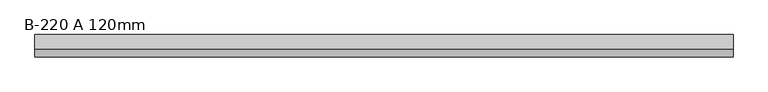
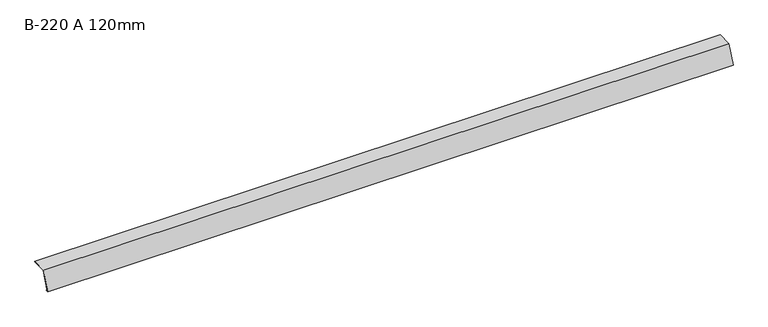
"""IFC4 building model written with IfcOpenShell, lengths in millimetres: proxy geometry, GROVIK_Flashing_Eaves : B-220 A 120mm."""

import ifcopenshell
import ifcopenshell.guid

model = None  # the IFC model being written
_history = None  # IfcOwnerHistory: only IFC2X3 demands one
_inside = {}  # id of a spatial element -> (the spatial element, [elements in it])
_under = {}  # id of a project, library or spatial element -> (it, [spatial elements below it])
_declared = {}  # id of a project -> (the project, [libraries it declares])
_typed = {}  # id of a type object -> (the type object, [elements of that type])
_made_of = {}  # id of a material, layer set ... -> (it, [elements and type objects made of it])


def new_model(schema):
    """Start an empty IFC model of exactly this schema.

    Asked for "IFC4X3", IfcOpenShell would pick the latest addendum, in which some entities
    have other attributes; the version numbers below select the first issue.
    IFC2X3 requires an IfcOwnerHistory on every rooted entity: one is made here for all.
    """
    global model, _history
    if schema == "IFC4X3":
        model = ifcopenshell.file(schema_version=(4, 3, 0, 0))
    else:
        model = ifcopenshell.file(schema=schema)
    _inside.clear()
    _under.clear()
    _declared.clear()
    _typed.clear()
    _made_of.clear()
    _history = None
    if model.schema == "IFC2X3":
        org = make("IfcOrganization", Name="unknown")
        user = make(
            "IfcPersonAndOrganization",
            ThePerson=make("IfcPerson", FamilyName="unknown"),
            TheOrganization=org,
        )
        app = make(
            "IfcApplication",
            ApplicationDeveloper=org,
            Version="unknown",
            ApplicationFullName="unknown",
            ApplicationIdentifier="unknown",
        )
        _history = make(
            "IfcOwnerHistory",
            OwningUser=user,
            OwningApplication=app,
            ChangeAction="ADDED",
            CreationDate=0,
        )
    return model


def make(cls, **values):
    """One entity of the class cls with the attributes given. An attribute that is None is left unset."""
    return model.create_entity(
        cls, **{name: value for name, value in values.items() if value is not None}
    )


def rooted(cls, **values):
    """An entity with a GlobalId (a new one), such as an element, a storey or a relation."""
    return make(cls, GlobalId=ifcopenshell.guid.new(), OwnerHistory=_history, **values)


def si_unit(unit_type, name, prefix=None):
    """IfcSIUnit, for example si_unit("LENGTHUNIT", "METRE", prefix="MILLI")."""
    return make("IfcSIUnit", UnitType=unit_type, Prefix=prefix, Name=name)


def assignment(units):
    """IfcUnitAssignment: the units of a project."""
    return None if units is None else make("IfcUnitAssignment", Units=units)


def point(xyz):
    """IfcCartesianPoint."""
    return None if xyz is None else make("IfcCartesianPoint", Coordinates=xyz)


def direction(xyz):
    """IfcDirection."""
    return None if xyz is None else make("IfcDirection", DirectionRatios=xyz)


def frame(location, z_axis=None, x_axis=None):
    """IfcAxis2Placement3D, a coordinate frame: its origin and axes. An axis left out is left unset."""
    return make(
        "IfcAxis2Placement3D",
        Location=point(location),
        Axis=direction(z_axis),
        RefDirection=direction(x_axis),
    )


def origin():
    """The frame at (0, 0, 0) with its axes left unset."""
    return frame((0.0, 0.0, 0.0))


def place(relative_to, where):
    """IfcLocalPlacement: puts the frame where relative to a parent placement (None: the world)."""
    return make(
        "IfcLocalPlacement", PlacementRelTo=relative_to, RelativePlacement=where
    )


def context(
    kind, dimensions, precision=None, world=None, true_north=None, identifier=None
):
    """IfcGeometricRepresentationContext, for example the 3D "Model" context."""
    return make(
        "IfcGeometricRepresentationContext",
        ContextIdentifier=identifier,
        ContextType=kind,
        CoordinateSpaceDimension=dimensions,
        Precision=precision,
        WorldCoordinateSystem=world,
        TrueNorth=true_north,
    )


def project(units=None, contexts=None):
    """IfcProject with its units and contexts."""
    return rooted(
        "IfcProject",
        Name="project",
        RepresentationContexts=contexts,
        UnitsInContext=assignment(units),
    )


def spatial(cls, under=None, at=None, **own):
    """A site, building, storey or space (cls), placed at a placement, below another one or the project."""
    s = rooted(cls, ObjectPlacement=at, **own)
    if under is not None:
        _under.setdefault(under.id(), (under, []))[1].append(s)
    return s


def polyline(points):
    """IfcPolyline through the points."""
    return make("IfcPolyline", Points=[point(p) for p in points])


def outline(outer, holes=None, kind="AREA"):
    """IfcArbitraryClosedProfileDef: a profile drawn as a closed curve; with holes, ...WithVoids."""
    if holes is None:
        return make("IfcArbitraryClosedProfileDef", ProfileType=kind, OuterCurve=outer)
    return make(
        "IfcArbitraryProfileDefWithVoids",
        ProfileType=kind,
        OuterCurve=outer,
        InnerCurves=holes,
    )


def extrude(swept, where, along, depth):
    """IfcExtrudedAreaSolid: the profile swept, set in the frame where, extruded along a direction by depth."""
    return make(
        "IfcExtrudedAreaSolid",
        SweptArea=swept,
        Position=where,
        ExtrudedDirection=direction(along),
        Depth=depth,
    )


def shape(context_of_items, identifier, shape_type, items):
    """IfcShapeRepresentation: the items that make up one representation, for example the "Body"."""
    return make(
        "IfcShapeRepresentation",
        ContextOfItems=context_of_items,
        RepresentationIdentifier=identifier,
        RepresentationType=shape_type,
        Items=items,
    )


def source(mapping_origin, context_of_items, identifier, shape_type, items):
    """IfcRepresentationMap: a shape defined once, which mapped items show again and again."""
    return make(
        "IfcRepresentationMap",
        MappingOrigin=mapping_origin,
        MappedRepresentation=shape(context_of_items, identifier, shape_type, items),
    )


def transform(
    local_origin,
    x_axis=None,
    y_axis=None,
    z_axis=None,
    scale=None,
    scale2=None,
    scale3=None,
    uniform=True,
):
    """IfcCartesianTransformationOperator3D, or its non-uniform kind. x_axis, y_axis, z_axis: its Axis1, 2, 3."""
    if uniform:
        return make(
            "IfcCartesianTransformationOperator3D",
            Axis1=direction(x_axis),
            Axis2=direction(y_axis),
            LocalOrigin=point(local_origin),
            Scale=scale,
            Axis3=direction(z_axis),
        )
    return make(
        "IfcCartesianTransformationOperator3DnonUniform",
        Axis1=direction(x_axis),
        Axis2=direction(y_axis),
        LocalOrigin=point(local_origin),
        Scale=scale,
        Axis3=direction(z_axis),
        Scale2=scale2,
        Scale3=scale3,
    )


def mapped(mapping_source, mapping_target):
    """IfcMappedItem: shows the shape of a source again, moved by a transform."""
    return make(
        "IfcMappedItem", MappingSource=mapping_source, MappingTarget=mapping_target
    )


def made_of(thing, what):
    """Note that an element or type object is made of a material, layer set ...; save() writes the relation."""
    if what is not None:
        _made_of.setdefault(what.id(), (what, []))[1].append(thing)
    return thing


def element(
    cls,
    number,
    at=None,
    inside=None,
    cuts=None,
    type_object=None,
    material=None,
    context=None,
    identifier="Body",
    shape_type=None,
    held_by="IfcProductDefinitionShape",
    body=None,
    shapes=None,
    **own,
):
    """One element of the class cls, such as IfcWall. Its Tag is "e" and its number.

    at: its placement. inside: the storey or other place that contains it. cuts: it is an
    opening in that element (IfcRelVoidsElement). A single representation is given by context,
    identifier, shape_type and body (its items); several are given by shapes. held_by: the class
    of the entity that holds the representations. save() writes the other relations.
    """
    e = rooted(cls, Tag="e%d" % number, ObjectPlacement=at, **own)
    if body is not None:
        shapes = [shape(context, identifier, shape_type, body)]
    if shapes is not None:
        e.Representation = make(held_by, Representations=shapes)
    if inside is not None:
        _inside.setdefault(inside.id(), (inside, []))[1].append(e)
    if cuts is not None:
        rooted(
            "IfcRelVoidsElement", RelatingBuildingElement=cuts, RelatedOpeningElement=e
        )
    if type_object is not None:
        _typed.setdefault(type_object.id(), (type_object, []))[1].append(e)
    return made_of(e, material)


def aggregate(whole, parts):
    """IfcRelAggregates: a whole, such as a stair, and the parts it consists of."""
    return rooted("IfcRelAggregates", RelatingObject=whole, RelatedObjects=parts)


def save(model, path):
    """Write the relations noted so far, then the file.

    IfcRelAggregates (storeys below a building ...), IfcRelContainedInSpatialStructure (elements
    in a storey), IfcRelDefinesByType, IfcRelAssociatesMaterial and IfcRelDeclares: one each for
    every whole, place, type object, material and project.
    """
    for whole, parts in _under.values():
        aggregate(whole, parts)
    for where, things in _inside.values():
        rooted(
            "IfcRelContainedInSpatialStructure",
            RelatedElements=things,
            RelatingStructure=where,
        )
    for kind, things in _typed.values():
        rooted("IfcRelDefinesByType", RelatedObjects=things, RelatingType=kind)
    for what, things in _made_of.values():
        rooted("IfcRelAssociatesMaterial", RelatedObjects=things, RelatingMaterial=what)
    for by, libraries in _declared.values():
        rooted("IfcRelDeclares", RelatingContext=by, RelatedDefinitions=libraries)
    model.write(path)


def b_220_a_120mm_c45b3949(model_context):
    return source(origin(), model_context, "Body", "SweptSolid", [
        extrude(outline(polyline([(-0.6918582, 0.9880759), (-43.5778606, -110.7337801), (-33.8749034, -108.3145612), (-33.6329815, -109.2848569), (-45.1998595, -112.1688035), (-1.3837164, 1.9761518), (88.9515401, 3.5529596), (88.9689925, 2.5531119), (-0.6918582, 0.9880759)])), frame((0.0, 0.0, 0.0), z_axis=(1.0, 0.0, 0.0), x_axis=(0.0, 1.0, 0.0)), (0.0, 0.0, 1.0), 4200.0),
    ])


if __name__ == "__main__":
    model = new_model("IFC4")
    model_context = context("Model", 3, world=origin())
    ifc_project = project(units=[si_unit("LENGTHUNIT", "METRE", prefix="MILLI")], contexts=[model_context])
    site = spatial("IfcSite", under=ifc_project)
    building = spatial("IfcBuilding", under=site)
    placement = place(None, origin())
    b_220_a_120mm_shape = b_220_a_120mm_c45b3949(model_context)
    element("IfcBuildingElementProxy", 1, Name="GROVIK_Flashing_Eaves : B-220 A 120mm", ObjectType="GROVIK_Flashing_Eaves : B-220 A 120mm", at=placement, inside=building, context=model_context, shape_type="MappedRepresentation", body=[
        mapped(b_220_a_120mm_shape, transform((0.0, 0.0, 0.0), x_axis=(1.0, 0.0, 0.0), y_axis=(0.0, 1.0, 0.0), z_axis=(0.0, 0.0, 1.0))),
    ])
    save(model, "model.ifc")
